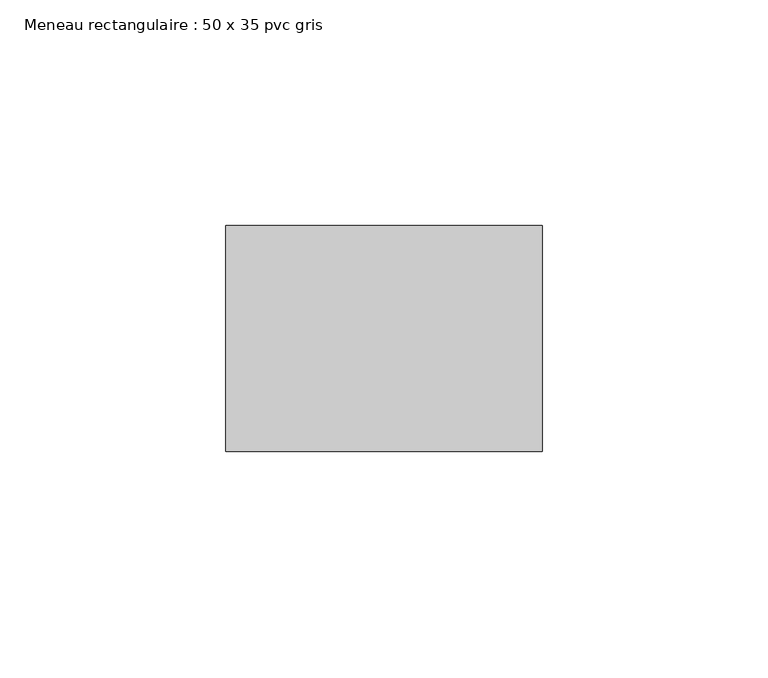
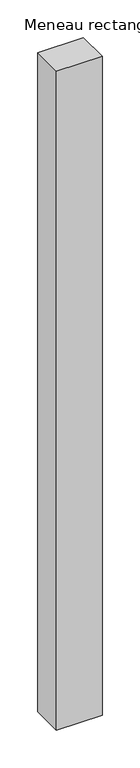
"""IFC4 building model written with IfcOpenShell, lengths in millimetres: member geometry, Meneau rectangulaire : 50 x 35 pvc gris."""

from ifc_helpers import new_model, si_unit, frame, origin, place, context, project, spatial, polyline, outline, extrude, source, transform, mapped, element, save


def meneau_rectangulaire_50_x_35_pvc_gris_d8f0b8c2(model_context):
    return source(origin(), model_context, "Body", "SweptSolid", [
        extrude(outline(polyline([(35.0, 0.0), (35.0, -50.0), (-35.0, -50.0), (-35.0, 0.0), (35.0, 0.0)])), frame((0.0, 0.0, -1068.9604608), z_axis=(0.0, 0.0, 1.0), x_axis=(1.0, 0.0, 0.0)), (0.0, 0.0, 1.0), 1068.9604608),
    ])


if __name__ == "__main__":
    model = new_model("IFC4")
    model_context = context("Model", 3, world=origin())
    ifc_project = project(units=[si_unit("LENGTHUNIT", "METRE", prefix="MILLI")], contexts=[model_context])
    site = spatial("IfcSite", under=ifc_project)
    building = spatial("IfcBuilding", under=site)
    placement = place(None, origin())
    meneau_rectangulaire_50_x_35_pvc_gris_shape = meneau_rectangulaire_50_x_35_pvc_gris_d8f0b8c2(model_context)
    element("IfcMember", 1, ObjectType="Meneau rectangulaire : 50 x 35 pvc gris", at=placement, inside=building, context=model_context, shape_type="MappedRepresentation", body=[
        mapped(meneau_rectangulaire_50_x_35_pvc_gris_shape, transform((0.0, 0.0, 0.0), x_axis=(1.0, 0.0, 0.0), y_axis=(0.0, 1.0, 0.0), z_axis=(0.0, 0.0, 1.0))),
    ])
    save(model, "model.ifc")
